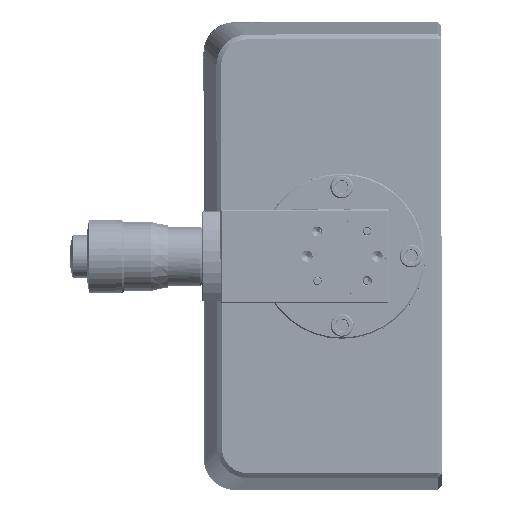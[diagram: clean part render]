
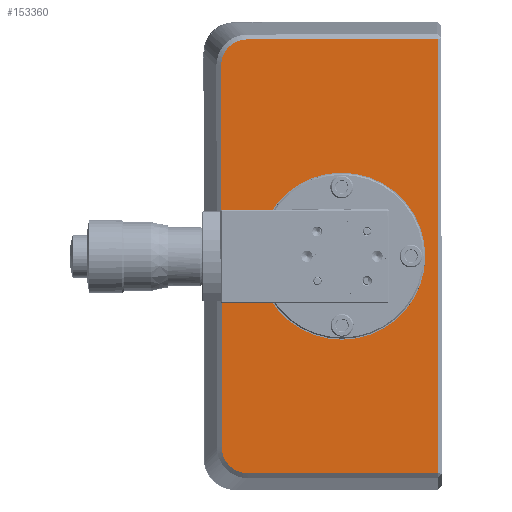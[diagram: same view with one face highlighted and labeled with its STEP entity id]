
A CAD part, left-side view. The second image highlights one B-rep face of the part: STEP entity #153360.
In plain terms, the highlighted planar face has unit normal (-1, -0.002, -0.001).
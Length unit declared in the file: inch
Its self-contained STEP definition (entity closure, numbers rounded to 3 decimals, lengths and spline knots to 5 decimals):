
#1172 = CARTESIAN_POINT ( 'NONE',  ( -0.09451, -6.66181, -1.31774 ) ) ;
#2315 = CARTESIAN_POINT ( 'NONE',  ( -0.09328, -6.87299, -3.05755 ) ) ;
#7653 = DIRECTION ( 'NONE',  ( -1., -0.002, -0.001 ) ) ;
#11563 = ORIENTED_EDGE ( 'NONE', *, *, #29545, .T. ) ;
#14284 = DIRECTION ( 'NONE',  ( 1., 0.002, 0.001 ) ) ;
#18221 = LINE ( 'NONE', #40693, #258961 ) ;
#18346 = CIRCLE ( 'NONE', #189784, 0.67 ) ;
#19525 = B_SPLINE_CURVE_WITH_KNOTS ( 'NONE', 3,
 ( #148776, #287804, #217391, #80231, #220344, #286304, #175544, #130844, #129364, #81673 ),
 .UNSPECIFIED., .F., .F.,
 ( 4, 2, 2, 2, 4 ),
 ( 0., 0.25, 0.5, 0.75, 1. ),
 .UNSPECIFIED. ) ;
#24558 = VERTEX_POINT ( 'NONE', #231574 ) ;
#26748 = ORIENTED_EDGE ( 'NONE', *, *, #255854, .T. ) ;
#29545 = EDGE_CURVE ( 'NONE', #72809, #46035, #220818, .T. ) ;
#40693 = CARTESIAN_POINT ( 'NONE',  ( -0.0918, -8.39689, -1.31549 ) ) ;
#43364 = CARTESIAN_POINT ( 'NONE',  ( -0.09368, -6.6693, -2.90388 ) ) ;
#46035 = VERTEX_POINT ( 'NONE', #2315 ) ;
#46773 = VERTEX_POINT ( 'NONE', #78011 ) ;
#47644 = VERTEX_POINT ( 'NONE', #216706 ) ;
#54263 = EDGE_CURVE ( 'NONE', #87113, #46773, #18346, .T. ) ;
#56256 = PLANE ( 'NONE',  #226199 ) ;
#60507 = CARTESIAN_POINT ( 'NONE',  ( -0.09089, -8.39914, -3.05557 ) ) ;
#72809 = VERTEX_POINT ( 'NONE', #285482 ) ;
#74918 = VECTOR ( 'NONE', #112507, 39.37008 ) ;
#78011 = CARTESIAN_POINT ( 'NONE',  ( -0.09335, -7.62602, -0.64649 ) ) ;
#80231 = CARTESIAN_POINT ( 'NONE',  ( -0.09524, -6.76305, 0.39624 ) ) ;
#81673 = CARTESIAN_POINT ( 'NONE',  ( -0.09531, -6.65983, 0.21342 ) ) ;
#87113 = VERTEX_POINT ( 'NONE', #212725 ) ;
#88823 = EDGE_CURVE ( 'NONE', #46773, #87113, #219215, .T. ) ;
#91407 = DIRECTION ( 'NONE',  ( -0.001, 0.001, 1. ) ) ;
#104270 = EDGE_LOOP ( 'NONE', ( #11563, #195409, #26748, #212860, #112044, #154880 ) ) ;
#107569 = CARTESIAN_POINT ( 'NONE',  ( -0.09358, -6.70569, -2.97754 ) ) ;
#110056 = CARTESIAN_POINT ( 'NONE',  ( -0.09414, -7.47463, 0.42339 ) ) ;
#112044 = ORIENTED_EDGE ( 'NONE', *, *, #249149, .T. ) ;
#112507 = DIRECTION ( 'NONE',  ( 0.002, -1., 0.001 ) ) ;
#113445 = CARTESIAN_POINT ( 'NONE',  ( -0.09337, -6.81799, -3.05219 ) ) ;
#114009 = VECTOR ( 'NONE', #159436, 39.37008 ) ;
#115458 = CARTESIAN_POINT ( 'NONE',  ( -0.09271, -8.39463, 0.42459 ) ) ;
#119650 = DIRECTION ( 'NONE',  ( -0.001, 0.001, 1. ) ) ;
#124798 = CARTESIAN_POINT ( 'NONE',  ( -0.09324, -7.47689, -1.31668 ) ) ;
#128915 = EDGE_LOOP ( 'NONE', ( #246055, #216758 ) ) ;
#129364 = CARTESIAN_POINT ( 'NONE',  ( -0.09532, -6.65979, 0.24096 ) ) ;
#130844 = CARTESIAN_POINT ( 'NONE',  ( -0.09533, -6.66519, 0.26841 ) ) ;
#131561 = VERTEX_POINT ( 'NONE', #60507 ) ;
#137245 = CARTESIAN_POINT ( 'NONE',  ( -0.09362, -6.69017, -2.95432 ) ) ;
#140532 = DIRECTION ( 'NONE',  ( -1., -0.002, -0.001 ) ) ;
#148776 = CARTESIAN_POINT ( 'NONE',  ( -0.09509, -6.86848, 0.42261 ) ) ;
#153360 = ADVANCED_FACE ( 'NONE', ( #218740, #193385 ), #56256, .F. ) ;
#154880 = ORIENTED_EDGE ( 'NONE', *, *, #274460, .T. ) ;
#155496 = DIRECTION ( 'NONE',  ( -0.001, 0.001, 1. ) ) ;
#158158 = CARTESIAN_POINT ( 'NONE',  ( -0.09372, -6.6638, -2.8489 ) ) ;
#159436 = DIRECTION ( 'NONE',  ( 0.001, -0.001, -1. ) ) ;
#175544 = CARTESIAN_POINT ( 'NONE',  ( -0.09532, -6.68593, 0.31891 ) ) ;
#181716 = LINE ( 'NONE', #1172, #114009 ) ;
#189784 = AXIS2_PLACEMENT_3D ( 'NONE', #212074, #7653, #119650 ) ;
#193385 = FACE_BOUND ( 'NONE', #128915, .T. ) ;
#195409 = ORIENTED_EDGE ( 'NONE', *, *, #248381, .T. ) ;
#198444 = CARTESIAN_POINT ( 'NONE',  ( -0.09346, -6.7675, -3.03145 ) ) ;
#200953 = DIRECTION ( 'NONE',  ( -0.002, 1., -0.001 ) ) ;
#212074 = CARTESIAN_POINT ( 'NONE',  ( -0.093, -7.62689, -1.31649 ) ) ;
#212725 = CARTESIAN_POINT ( 'NONE',  ( -0.09266, -7.62776, -1.98649 ) ) ;
#212860 = ORIENTED_EDGE ( 'NONE', *, *, #251280, .T. ) ;
#216706 = CARTESIAN_POINT ( 'NONE',  ( -0.09509, -6.86848, 0.42261 ) ) ;
#216758 = ORIENTED_EDGE ( 'NONE', *, *, #54263, .F. ) ;
#217266 = DIRECTION ( 'NONE',  ( 0.001, -0.001, -1. ) ) ;
#217391 = CARTESIAN_POINT ( 'NONE',  ( -0.09518, -6.8135, 0.4171 ) ) ;
#218740 = FACE_OUTER_BOUND ( 'NONE', #104270, .T. ) ;
#219215 = CIRCLE ( 'NONE', #276621, 0.67 ) ;
#220344 = CARTESIAN_POINT ( 'NONE',  ( -0.09527, -6.73984, 0.38072 ) ) ;
#220818 = B_SPLINE_CURVE_WITH_KNOTS ( 'NONE', 3,
 ( #158158, #270383, #43364, #137245, #107569, #223882, #198444, #113445, #271856, #247916 ),
 .UNSPECIFIED., .F., .F.,
 ( 4, 2, 2, 2, 4 ),
 ( 0., 0.25, 0.5, 0.75, 1. ),
 .UNSPECIFIED. ) ;
#223882 = CARTESIAN_POINT ( 'NONE',  ( -0.0935, -6.74424, -3.01599 ) ) ;
#226199 = AXIS2_PLACEMENT_3D ( 'NONE', #124798, #14284, #217266 ) ;
#227413 = LINE ( 'NONE', #294719, #74918 ) ;
#231574 = CARTESIAN_POINT ( 'NONE',  ( -0.09531, -6.65983, 0.21342 ) ) ;
#246055 = ORIENTED_EDGE ( 'NONE', *, *, #88823, .F. ) ;
#247916 = CARTESIAN_POINT ( 'NONE',  ( -0.09328, -6.87299, -3.05755 ) ) ;
#248381 = EDGE_CURVE ( 'NONE', #46035, #131561, #227413, .T. ) ;
#249149 = EDGE_CURVE ( 'NONE', #47644, #24558, #19525, .T. ) ;
#251280 = EDGE_CURVE ( 'NONE', #258779, #47644, #266961, .T. ) ;
#255854 = EDGE_CURVE ( 'NONE', #131561, #258779, #18221, .T. ) ;
#258779 = VERTEX_POINT ( 'NONE', #115458 ) ;
#258961 = VECTOR ( 'NONE', #155496, 39.37008 ) ;
#266961 = LINE ( 'NONE', #110056, #271894 ) ;
#270383 = CARTESIAN_POINT ( 'NONE',  ( -0.0937, -6.66383, -2.87638 ) ) ;
#271856 = CARTESIAN_POINT ( 'NONE',  ( -0.09332, -6.84545, -3.05758 ) ) ;
#271894 = VECTOR ( 'NONE', #200953, 39.37008 ) ;
#272191 = CARTESIAN_POINT ( 'NONE',  ( -0.093, -7.62689, -1.31649 ) ) ;
#274460 = EDGE_CURVE ( 'NONE', #24558, #72809, #181716, .T. ) ;
#276621 = AXIS2_PLACEMENT_3D ( 'NONE', #272191, #140532, #91407 ) ;
#285482 = CARTESIAN_POINT ( 'NONE',  ( -0.09372, -6.6638, -2.8489 ) ) ;
#286304 = CARTESIAN_POINT ( 'NONE',  ( -0.09531, -6.70138, 0.34217 ) ) ;
#287804 = CARTESIAN_POINT ( 'NONE',  ( -0.09514, -6.84099, 0.42257 ) ) ;
#294719 = CARTESIAN_POINT ( 'NONE',  ( -0.09233, -7.47915, -3.05676 ) ) ;
